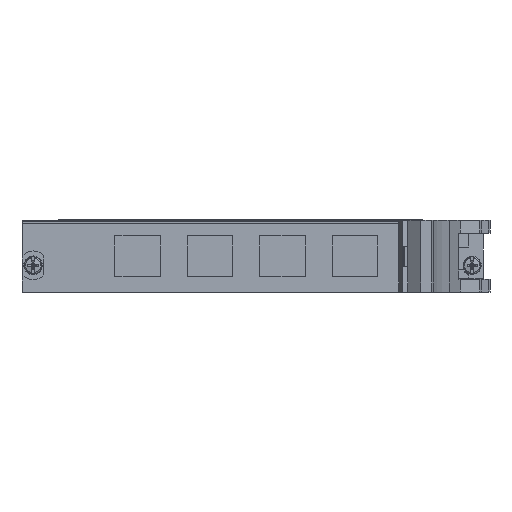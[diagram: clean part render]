
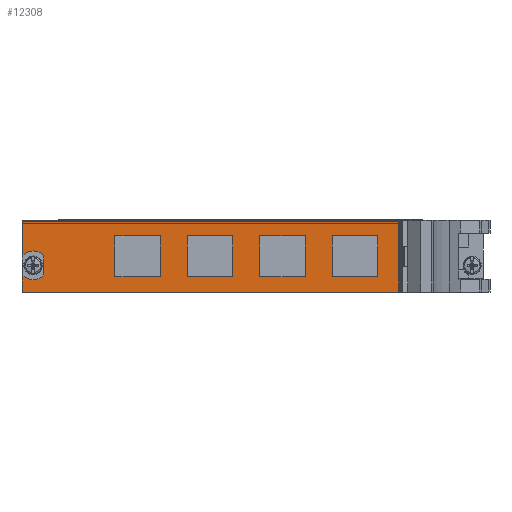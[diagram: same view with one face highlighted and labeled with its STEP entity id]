
A CAD part, left-side view. The second image highlights one B-rep face of the part: STEP entity #12308.
In plain terms, the highlighted planar face has unit normal (-1, 0, 0).
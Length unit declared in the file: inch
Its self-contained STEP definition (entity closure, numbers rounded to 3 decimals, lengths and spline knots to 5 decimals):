
#2626=DIRECTION('',(0.,-1.,0.));
#2627=VECTOR('',#2626,4.443);
#2628=CARTESIAN_POINT('',(-0.2,0.56465,0.683));
#2629=LINE('',#2628,#2627);
#2630=DIRECTION('',(0.,0.,1.));
#2631=VECTOR('',#2630,0.776);
#2632=CARTESIAN_POINT('',(-0.2,-3.87835,-0.093));
#2633=LINE('',#2632,#2631);
#2634=DIRECTION('',(0.,-1.,0.));
#2635=VECTOR('',#2634,4.443);
#2636=CARTESIAN_POINT('',(-0.2,0.56465,-0.093));
#2637=LINE('',#2636,#2635);
#2638=DIRECTION('',(0.,0.,-1.));
#2639=VECTOR('',#2638,0.776);
#2640=CARTESIAN_POINT('',(-0.2,0.56465,0.683));
#2641=LINE('',#2640,#2639);
#2642=CARTESIAN_POINT('',(-0.2,-3.74055,0.301));
#2643=DIRECTION('',(1.,0.,0.));
#2644=DIRECTION('',(0.,1.,0.));
#2645=AXIS2_PLACEMENT_3D('',#2642,#2643,#2644);
#2647=CARTESIAN_POINT('',(-0.2,-3.74055,0.301));
#2648=DIRECTION('',(1.,0.,0.));
#2649=DIRECTION('',(0.,-1.,0.));
#2650=AXIS2_PLACEMENT_3D('',#2647,#2648,#2649);
#2652=DIRECTION('',(0.,-1.,0.));
#2653=VECTOR('',#2652,0.5);
#2654=CARTESIAN_POINT('',(-0.2,-2.84035,0.077));
#2655=LINE('',#2654,#2653);
#2656=DIRECTION('',(0.,0.,1.));
#2657=VECTOR('',#2656,0.448);
#2658=CARTESIAN_POINT('',(-0.2,-3.34035,0.077));
#2659=LINE('',#2658,#2657);
#2660=DIRECTION('',(0.,1.,0.));
#2661=VECTOR('',#2660,0.5);
#2662=CARTESIAN_POINT('',(-0.2,-3.34035,0.525));
#2663=LINE('',#2662,#2661);
#2664=DIRECTION('',(0.,0.,-1.));
#2665=VECTOR('',#2664,0.448);
#2666=CARTESIAN_POINT('',(-0.2,-2.84035,0.525));
#2667=LINE('',#2666,#2665);
#2668=DIRECTION('',(0.,-1.,0.));
#2669=VECTOR('',#2668,0.5);
#2670=CARTESIAN_POINT('',(-0.2,-2.04535,0.077));
#2671=LINE('',#2670,#2669);
#2672=DIRECTION('',(0.,0.,1.));
#2673=VECTOR('',#2672,0.448);
#2674=CARTESIAN_POINT('',(-0.2,-2.54535,0.077));
#2675=LINE('',#2674,#2673);
#2676=DIRECTION('',(0.,1.,0.));
#2677=VECTOR('',#2676,0.5);
#2678=CARTESIAN_POINT('',(-0.2,-2.54535,0.525));
#2679=LINE('',#2678,#2677);
#2680=DIRECTION('',(0.,0.,-1.));
#2681=VECTOR('',#2680,0.448);
#2682=CARTESIAN_POINT('',(-0.2,-2.04535,0.525));
#2683=LINE('',#2682,#2681);
#2684=DIRECTION('',(0.,-1.,0.));
#2685=VECTOR('',#2684,0.5);
#2686=CARTESIAN_POINT('',(-0.2,-1.25035,0.077));
#2687=LINE('',#2686,#2685);
#2688=DIRECTION('',(0.,0.,1.));
#2689=VECTOR('',#2688,0.448);
#2690=CARTESIAN_POINT('',(-0.2,-1.75035,0.077));
#2691=LINE('',#2690,#2689);
#2692=DIRECTION('',(0.,1.,0.));
#2693=VECTOR('',#2692,0.5);
#2694=CARTESIAN_POINT('',(-0.2,-1.75035,0.525));
#2695=LINE('',#2694,#2693);
#2696=DIRECTION('',(0.,0.,-1.));
#2697=VECTOR('',#2696,0.448);
#2698=CARTESIAN_POINT('',(-0.2,-1.25035,0.525));
#2699=LINE('',#2698,#2697);
#2700=DIRECTION('',(0.,-1.,0.));
#2701=VECTOR('',#2700,0.5);
#2702=CARTESIAN_POINT('',(-0.2,-0.45535,0.077));
#2703=LINE('',#2702,#2701);
#2704=DIRECTION('',(0.,0.,1.));
#2705=VECTOR('',#2704,0.448);
#2706=CARTESIAN_POINT('',(-0.2,-0.95535,0.077));
#2707=LINE('',#2706,#2705);
#2708=DIRECTION('',(0.,1.,0.));
#2709=VECTOR('',#2708,0.5);
#2710=CARTESIAN_POINT('',(-0.2,-0.95535,0.525));
#2711=LINE('',#2710,#2709);
#2712=DIRECTION('',(0.,0.,-1.));
#2713=VECTOR('',#2712,0.448);
#2714=CARTESIAN_POINT('',(-0.2,-0.45535,0.525));
#2715=LINE('',#2714,#2713);
#2716=CARTESIAN_POINT('',(-0.2,0.44265,0.201));
#2717=DIRECTION('',(-1.,0.,0.));
#2718=DIRECTION('',(0.,-0.752,0.659));
#2719=AXIS2_PLACEMENT_3D('',#2716,#2717,#2718);
#2721=DIRECTION('',(0.,0.,1.));
#2722=VECTOR('',#2721,0.2075);
#2723=CARTESIAN_POINT('',(-0.2,0.56115,0.09725));
#2724=LINE('',#2723,#2722);
#2725=CARTESIAN_POINT('',(-0.2,0.44265,0.201));
#2726=DIRECTION('',(-1.,0.,0.));
#2727=DIRECTION('',(0.,0.752,-0.659));
#2728=AXIS2_PLACEMENT_3D('',#2725,#2726,#2727);
#2730=DIRECTION('',(0.,0.,-1.));
#2731=VECTOR('',#2730,0.2075);
#2732=CARTESIAN_POINT('',(-0.2,0.32415,0.30475));
#2733=LINE('',#2732,#2731);
#8301=CARTESIAN_POINT('',(-0.2,0.56465,-0.093));
#8302=CARTESIAN_POINT('',(-0.2,-3.87835,-0.093));
#8303=VERTEX_POINT('',#8301);
#8304=VERTEX_POINT('',#8302);
#8313=CARTESIAN_POINT('',(-0.2,-3.68555,0.301));
#8314=CARTESIAN_POINT('',(-0.2,-3.79555,0.301));
#8315=VERTEX_POINT('',#8313);
#8316=VERTEX_POINT('',#8314);
#8343=CARTESIAN_POINT('',(-0.2,0.56465,0.683));
#8344=CARTESIAN_POINT('',(-0.2,-3.87835,0.683));
#8345=VERTEX_POINT('',#8343);
#8346=VERTEX_POINT('',#8344);
#8443=CARTESIAN_POINT('',(-0.2,-2.84035,0.077));
#8444=CARTESIAN_POINT('',(-0.2,-3.34035,0.077));
#8445=VERTEX_POINT('',#8443);
#8446=VERTEX_POINT('',#8444);
#8447=CARTESIAN_POINT('',(-0.2,-3.34035,0.525));
#8448=VERTEX_POINT('',#8447);
#8449=CARTESIAN_POINT('',(-0.2,-2.84035,0.525));
#8450=VERTEX_POINT('',#8449);
#8451=CARTESIAN_POINT('',(-0.2,-2.04535,0.077));
#8452=CARTESIAN_POINT('',(-0.2,-2.54535,0.077));
#8453=VERTEX_POINT('',#8451);
#8454=VERTEX_POINT('',#8452);
#8455=CARTESIAN_POINT('',(-0.2,-2.54535,0.525));
#8456=VERTEX_POINT('',#8455);
#8457=CARTESIAN_POINT('',(-0.2,-2.04535,0.525));
#8458=VERTEX_POINT('',#8457);
#8459=CARTESIAN_POINT('',(-0.2,-1.25035,0.077));
#8460=CARTESIAN_POINT('',(-0.2,-1.75035,0.077));
#8461=VERTEX_POINT('',#8459);
#8462=VERTEX_POINT('',#8460);
#8463=CARTESIAN_POINT('',(-0.2,-1.75035,0.525));
#8464=VERTEX_POINT('',#8463);
#8465=CARTESIAN_POINT('',(-0.2,-1.25035,0.525));
#8466=VERTEX_POINT('',#8465);
#8467=CARTESIAN_POINT('',(-0.2,-0.45535,0.077));
#8468=CARTESIAN_POINT('',(-0.2,-0.95535,0.077));
#8469=VERTEX_POINT('',#8467);
#8470=VERTEX_POINT('',#8468);
#8471=CARTESIAN_POINT('',(-0.2,-0.95535,0.525));
#8472=VERTEX_POINT('',#8471);
#8473=CARTESIAN_POINT('',(-0.2,-0.45535,0.525));
#8474=VERTEX_POINT('',#8473);
#8593=CARTESIAN_POINT('',(-0.2,0.32415,0.30475));
#8594=CARTESIAN_POINT('',(-0.2,0.56115,0.30475));
#8595=VERTEX_POINT('',#8593);
#8596=VERTEX_POINT('',#8594);
#8597=CARTESIAN_POINT('',(-0.2,0.56115,0.09725));
#8598=CARTESIAN_POINT('',(-0.2,0.32415,0.09725));
#8599=VERTEX_POINT('',#8597);
#8600=VERTEX_POINT('',#8598);
#12240=CARTESIAN_POINT('',(-0.2,0.56465,0.695));
#12241=DIRECTION('',(-1.,0.,0.));
#12242=DIRECTION('',(0.,-1.,0.));
#12243=AXIS2_PLACEMENT_3D('',#12240,#12241,#12242);
#12244=PLANE('',#12243);
#12245=ORIENTED_EDGE('',*,*,#12235,.T.);
#12246=ORIENTED_EDGE('',*,*,#11642,.F.);
#12248=ORIENTED_EDGE('',*,*,#12247,.F.);
#12249=ORIENTED_EDGE('',*,*,#11762,.F.);
#12250=EDGE_LOOP('',(#12245,#12246,#12248,#12249));
#12251=FACE_OUTER_BOUND('',#12250,.F.);
#12253=ORIENTED_EDGE('',*,*,#12252,.F.);
#12255=ORIENTED_EDGE('',*,*,#12254,.F.);
#12256=EDGE_LOOP('',(#12253,#12255));
#12257=FACE_BOUND('',#12256,.F.);
#12259=ORIENTED_EDGE('',*,*,#12258,.T.);
#12261=ORIENTED_EDGE('',*,*,#12260,.T.);
#12263=ORIENTED_EDGE('',*,*,#12262,.T.);
#12265=ORIENTED_EDGE('',*,*,#12264,.T.);
#12266=EDGE_LOOP('',(#12259,#12261,#12263,#12265));
#12267=FACE_BOUND('',#12266,.F.);
#12269=ORIENTED_EDGE('',*,*,#12268,.T.);
#12271=ORIENTED_EDGE('',*,*,#12270,.T.);
#12273=ORIENTED_EDGE('',*,*,#12272,.T.);
#12275=ORIENTED_EDGE('',*,*,#12274,.T.);
#12276=EDGE_LOOP('',(#12269,#12271,#12273,#12275));
#12277=FACE_BOUND('',#12276,.F.);
#12279=ORIENTED_EDGE('',*,*,#12278,.T.);
#12281=ORIENTED_EDGE('',*,*,#12280,.T.);
#12283=ORIENTED_EDGE('',*,*,#12282,.T.);
#12285=ORIENTED_EDGE('',*,*,#12284,.T.);
#12286=EDGE_LOOP('',(#12279,#12281,#12283,#12285));
#12287=FACE_BOUND('',#12286,.F.);
#12289=ORIENTED_EDGE('',*,*,#12288,.T.);
#12291=ORIENTED_EDGE('',*,*,#12290,.T.);
#12293=ORIENTED_EDGE('',*,*,#12292,.T.);
#12295=ORIENTED_EDGE('',*,*,#12294,.T.);
#12296=EDGE_LOOP('',(#12289,#12291,#12293,#12295));
#12297=FACE_BOUND('',#12296,.F.);
#12299=ORIENTED_EDGE('',*,*,#12298,.T.);
#12301=ORIENTED_EDGE('',*,*,#12300,.F.);
#12303=ORIENTED_EDGE('',*,*,#12302,.T.);
#12305=ORIENTED_EDGE('',*,*,#12304,.F.);
#12306=EDGE_LOOP('',(#12299,#12301,#12303,#12305));
#12307=FACE_BOUND('',#12306,.F.);
#12308=ADVANCED_FACE('',(#12251,#12257,#12267,#12277,#12287,#12297,#12307),
#12244,.T.);
#2646=CIRCLE('',#2645,0.055);
#2651=CIRCLE('',#2650,0.055);
#2720=CIRCLE('',#2719,0.1575);
#2729=CIRCLE('',#2728,0.1575);
#11642=EDGE_CURVE('',#8304,#8346,#2633,.T.);
#11762=EDGE_CURVE('',#8345,#8303,#2641,.T.);
#12235=EDGE_CURVE('',#8345,#8346,#2629,.T.);
#12247=EDGE_CURVE('',#8303,#8304,#2637,.T.);
#12252=EDGE_CURVE('',#8315,#8316,#2646,.T.);
#12254=EDGE_CURVE('',#8316,#8315,#2651,.T.);
#12258=EDGE_CURVE('',#8445,#8446,#2655,.T.);
#12260=EDGE_CURVE('',#8446,#8448,#2659,.T.);
#12262=EDGE_CURVE('',#8448,#8450,#2663,.T.);
#12264=EDGE_CURVE('',#8450,#8445,#2667,.T.);
#12268=EDGE_CURVE('',#8453,#8454,#2671,.T.);
#12270=EDGE_CURVE('',#8454,#8456,#2675,.T.);
#12272=EDGE_CURVE('',#8456,#8458,#2679,.T.);
#12274=EDGE_CURVE('',#8458,#8453,#2683,.T.);
#12278=EDGE_CURVE('',#8461,#8462,#2687,.T.);
#12280=EDGE_CURVE('',#8462,#8464,#2691,.T.);
#12282=EDGE_CURVE('',#8464,#8466,#2695,.T.);
#12284=EDGE_CURVE('',#8466,#8461,#2699,.T.);
#12288=EDGE_CURVE('',#8469,#8470,#2703,.T.);
#12290=EDGE_CURVE('',#8470,#8472,#2707,.T.);
#12292=EDGE_CURVE('',#8472,#8474,#2711,.T.);
#12294=EDGE_CURVE('',#8474,#8469,#2715,.T.);
#12298=EDGE_CURVE('',#8595,#8596,#2720,.T.);
#12300=EDGE_CURVE('',#8599,#8596,#2724,.T.);
#12302=EDGE_CURVE('',#8599,#8600,#2729,.T.);
#12304=EDGE_CURVE('',#8595,#8600,#2733,.T.);
